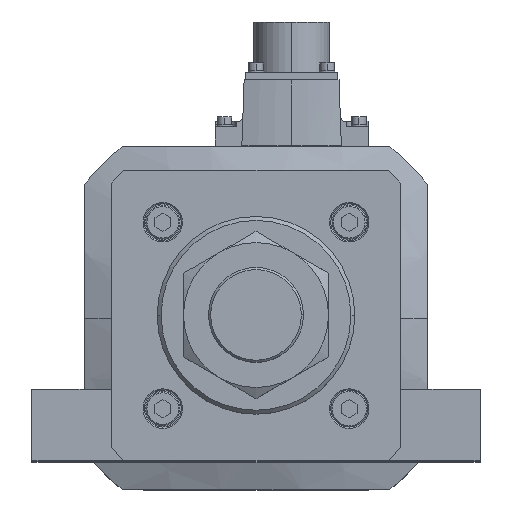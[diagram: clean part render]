
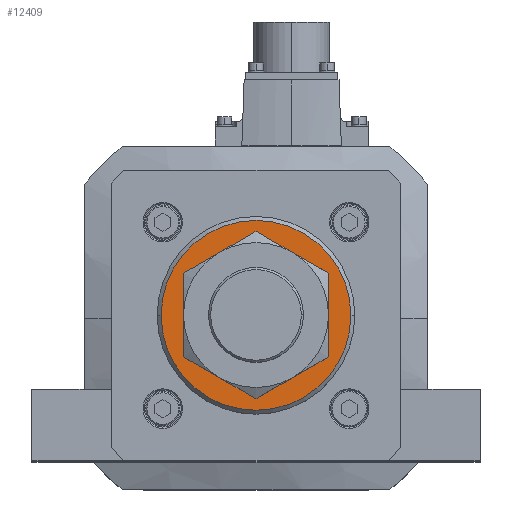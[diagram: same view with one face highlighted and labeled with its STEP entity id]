
A CAD part, top view. The second image highlights one B-rep face of the part: STEP entity #12409.
In plain terms, the highlighted planar face has unit normal (0, 0, 1).
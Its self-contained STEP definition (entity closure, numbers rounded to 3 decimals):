
#374 = CIRCLE ( 'NONE', #29564, 23. ) ;
#2096 = CARTESIAN_POINT ( 'NONE',  ( -23., 0., 346. ) ) ;
#2821 = VERTEX_POINT ( 'NONE', #2096 ) ;
#4155 = ORIENTED_EDGE ( 'NONE', *, *, #27211, .T. ) ;
#4861 = FACE_BOUND ( 'NONE', #30911, .T. ) ;
#6549 = AXIS2_PLACEMENT_3D ( 'NONE', #36194, #6632, #27129 ) ;
#6632 = DIRECTION ( 'NONE',  ( 0., 0., -1. ) ) ;
#6669 = DIRECTION ( 'NONE',  ( 0., 0., 1. ) ) ;
#7144 = AXIS2_PLACEMENT_3D ( 'NONE', #12295, #6669, #9591 ) ;
#8796 = CIRCLE ( 'NONE', #7144, 36. ) ;
#9591 = DIRECTION ( 'NONE',  ( 1., 0., 0. ) ) ;
#10048 = CIRCLE ( 'NONE', #6549, 23. ) ;
#11759 = EDGE_CURVE ( 'NONE', #18013, #2821, #374, .T. ) ;
#12295 = CARTESIAN_POINT ( 'NONE',  ( 0., 0., 346. ) ) ;
#12409 = ADVANCED_FACE ( 'NONE', ( #4861, #20871 ), #28593, .T. ) ;
#12625 = EDGE_CURVE ( 'NONE', #16718, #17762, #8796, .T. ) ;
#13968 = DIRECTION ( 'NONE',  ( 1., 0., 0. ) ) ;
#16542 = CARTESIAN_POINT ( 'NONE',  ( 23., 0., 346. ) ) ;
#16718 = VERTEX_POINT ( 'NONE', #23254 ) ;
#17762 = VERTEX_POINT ( 'NONE', #20395 ) ;
#18013 = VERTEX_POINT ( 'NONE', #16542 ) ;
#19241 = DIRECTION ( 'NONE',  ( 0., 0., 1. ) ) ;
#19710 = CARTESIAN_POINT ( 'NONE',  ( 0., 0., 346. ) ) ;
#20395 = CARTESIAN_POINT ( 'NONE',  ( -36., 0., 346. ) ) ;
#20795 = AXIS2_PLACEMENT_3D ( 'NONE', #33511, #19241, #36717 ) ;
#20871 = FACE_OUTER_BOUND ( 'NONE', #23832, .T. ) ;
#21116 = EDGE_CURVE ( 'NONE', #17762, #16718, #35281, .T. ) ;
#22274 = DIRECTION ( 'NONE',  ( 0., 0., -1. ) ) ;
#23254 = CARTESIAN_POINT ( 'NONE',  ( 36., 0., 346. ) ) ;
#23832 = EDGE_LOOP ( 'NONE', ( #34648, #27870 ) ) ;
#26236 = ORIENTED_EDGE ( 'NONE', *, *, #11759, .T. ) ;
#27129 = DIRECTION ( 'NONE',  ( 1., 0., 0. ) ) ;
#27211 = EDGE_CURVE ( 'NONE', #2821, #18013, #10048, .T. ) ;
#27870 = ORIENTED_EDGE ( 'NONE', *, *, #12625, .T. ) ;
#28001 = CARTESIAN_POINT ( 'NONE',  ( 0., 0., 346. ) ) ;
#28385 = DIRECTION ( 'NONE',  ( 1., 0., 0. ) ) ;
#28593 = PLANE ( 'NONE',  #30086 ) ;
#29564 = AXIS2_PLACEMENT_3D ( 'NONE', #28001, #22274, #28385 ) ;
#30086 = AXIS2_PLACEMENT_3D ( 'NONE', #19710, #37444, #13968 ) ;
#30911 = EDGE_LOOP ( 'NONE', ( #26236, #4155 ) ) ;
#33511 = CARTESIAN_POINT ( 'NONE',  ( 0., 0., 346. ) ) ;
#34648 = ORIENTED_EDGE ( 'NONE', *, *, #21116, .T. ) ;
#35281 = CIRCLE ( 'NONE', #20795, 36. ) ;
#36194 = CARTESIAN_POINT ( 'NONE',  ( 0., 0., 346. ) ) ;
#36717 = DIRECTION ( 'NONE',  ( 1., 0., 0. ) ) ;
#37444 = DIRECTION ( 'NONE',  ( 0., 0., 1. ) ) ;
